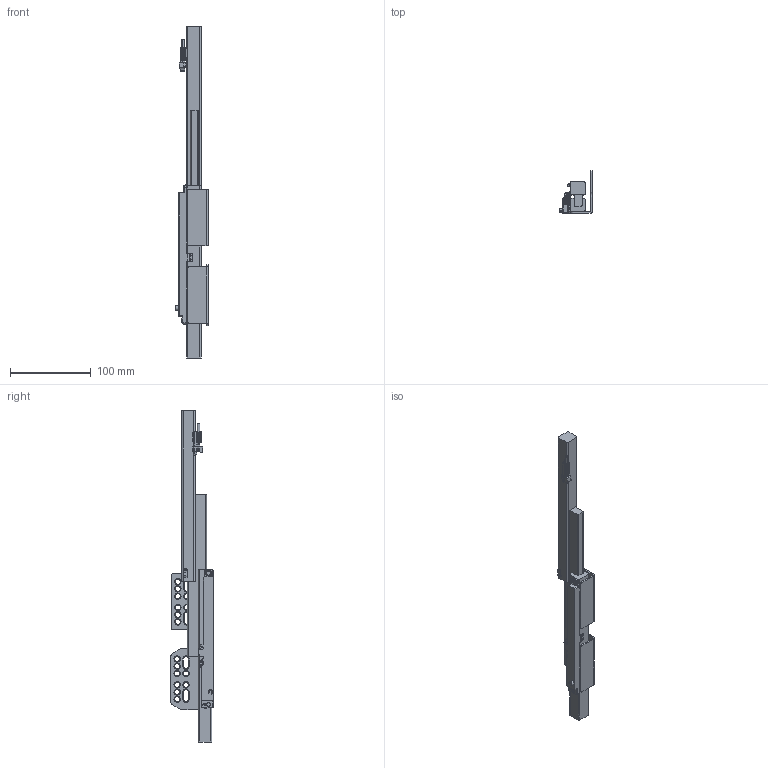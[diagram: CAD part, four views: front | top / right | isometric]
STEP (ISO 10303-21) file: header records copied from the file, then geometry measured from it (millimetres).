
FILE_DESCRIPTION (( 'STEP AP203' ), '1' );
FILE_NAME ('HB012704GX-R(打开).STEP', '2025-05-13T07:46:01', ( '微软用户' ), ( '微软中国' ), 'SwSTEP 2.0', 'SolidWorks 2021', '' );
FILE_SCHEMA (( 'CONFIG_CONTROL_DESIGN' ));
Products named in the file (4): HB412705H-1-R(湖羲); M覃誹儂凳R; HB012704GX-R(湖羲); 瑰貌寢OFH01-GG-GB.STEP
Assembly tree (3 placements, depth 2):
  HB012704GX-R(湖羲)
    HB412705H-1-R(湖羲)
    瑰貌寢OFH01-GG-GB.STEP
    M覃誹儂凳R
Bounding box: 40.83 x 53 x 412 mm (x, y, z)
Volume: 194793 mm3; surface area: 61995.5 mm2
Topology: 3 solids, 3 shells, 1194 faces, 3212 edges, 2013 vertices
Faces by surface type: cylinder 489, plane 368, torus 158, bspline 127, cone 44, sphere 8
Entity records: 68425 total; most frequent: CARTESIAN_POINT 39245, ORIENTED_EDGE 6368, DIRECTION 5833, EDGE_CURVE 3184, AXIS2_PLACEMENT_3D 2200, VERTEX_POINT 2011, LINE 1433, VECTOR 1433
